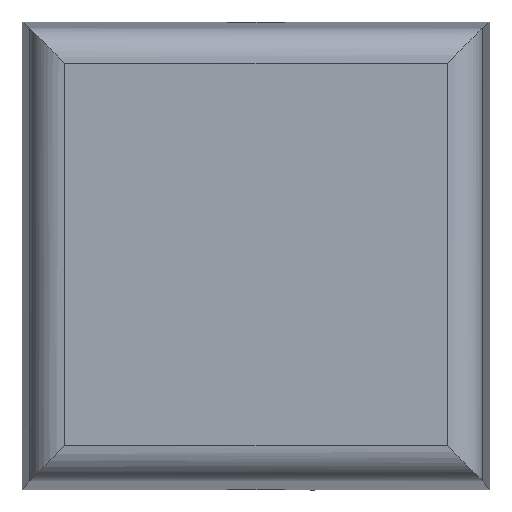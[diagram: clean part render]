
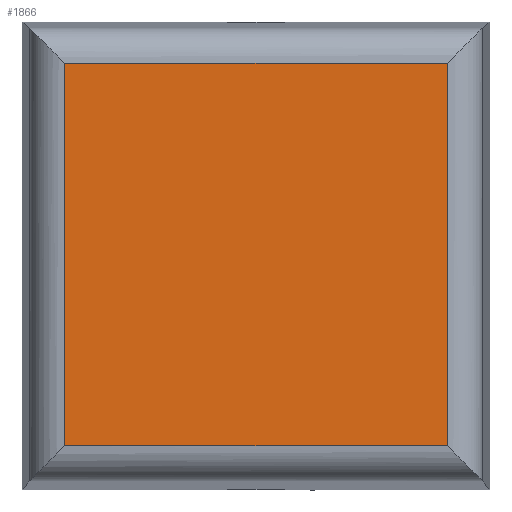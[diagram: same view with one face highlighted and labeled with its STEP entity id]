
A CAD part, top view. The second image highlights one B-rep face of the part: STEP entity #1866.
In plain terms, the highlighted planar face has unit normal (0, 0, 1).
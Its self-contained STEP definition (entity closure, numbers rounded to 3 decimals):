
#1767=CARTESIAN_POINT('',(-16.377,16.377,68.239));
#1768=VERTEX_POINT('',#1767);
#1776=CARTESIAN_POINT('',(16.377,16.377,68.239));
#1777=VERTEX_POINT('',#1776);
#1778=CARTESIAN_POINT('',(-16.377,16.377,68.239));
#1779=DIRECTION('',(1.0,0.0,0.0));
#1780=VECTOR('',#1779,32.754);
#1781=LINE('',#1778,#1780);
#1782=EDGE_CURVE('',#1768,#1777,#1781,.T.);
#1800=CARTESIAN_POINT('',(-16.377,-16.377,68.239));
#1801=VERTEX_POINT('',#1800);
#1810=CARTESIAN_POINT('',(16.377,-16.377,68.239));
#1811=VERTEX_POINT('',#1810);
#1819=CARTESIAN_POINT('',(-16.377,-16.377,68.239));
#1820=DIRECTION('',(1.0,0.0,0.0));
#1821=VECTOR('',#1820,32.754);
#1822=LINE('',#1819,#1821);
#1823=EDGE_CURVE('',#1801,#1811,#1822,.T.);
#1834=CARTESIAN_POINT('',(-16.377,16.377,68.239));
#1835=DIRECTION('',(0.,-1.0,0.));
#1836=VECTOR('',#1835,32.754);
#1837=LINE('',#1834,#1836);
#1838=EDGE_CURVE('',#1768,#1801,#1837,.T.);
#1850=CARTESIAN_POINT('',(-16.377,20.,68.239));
#1851=DIRECTION('',(0.,0.,1.0));
#1852=DIRECTION('',(0.,-1.0,0.));
#1853=AXIS2_PLACEMENT_3D('',#1850,#1851,#1852);
#1854=PLANE('',#1853);
#1855=ORIENTED_EDGE('',*,*,#1823,.T.);
#1856=CARTESIAN_POINT('',(16.377,16.377,68.239));
#1857=DIRECTION('',(0.,-1.0,0.));
#1858=VECTOR('',#1857,32.754);
#1859=LINE('',#1856,#1858);
#1860=EDGE_CURVE('',#1777,#1811,#1859,.T.);
#1861=ORIENTED_EDGE('',*,*,#1860,.F.);
#1862=ORIENTED_EDGE('',*,*,#1782,.F.);
#1863=ORIENTED_EDGE('',*,*,#1838,.T.);
#1864=EDGE_LOOP('',(#1855,#1861,#1862,#1863));
#1865=FACE_OUTER_BOUND('',#1864,.T.);
#1866=ADVANCED_FACE('',(#1865),#1854,.T.);
